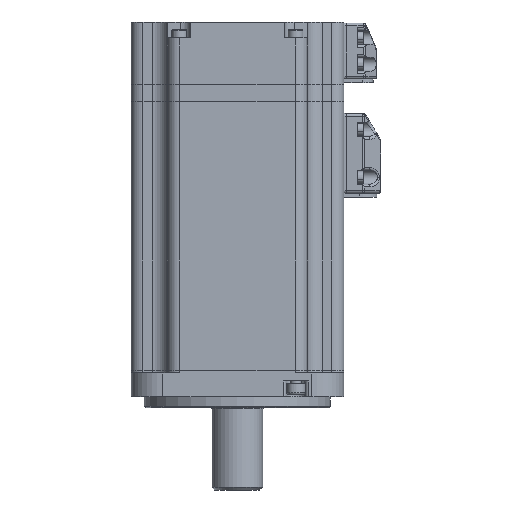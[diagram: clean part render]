
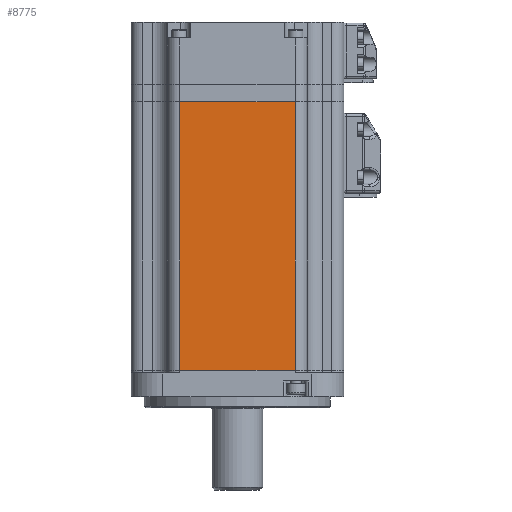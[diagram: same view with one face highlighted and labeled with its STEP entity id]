
A CAD part, front view. The second image highlights one B-rep face of the part: STEP entity #8775.
In plain terms, the highlighted planar face has unit normal (0, -1, 0).
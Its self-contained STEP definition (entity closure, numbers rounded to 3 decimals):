
#1295 = DIRECTION ( 'NONE',  ( 1., 0., 0. ) ) ;
#2282 = PLANE ( 'NONE',  #21031 ) ;
#2866 = EDGE_CURVE ( 'NONE', #11935, #46539, #43591, .T. ) ;
#3796 = DIRECTION ( 'NONE',  ( 0., 0., 1. ) ) ;
#5076 = CARTESIAN_POINT ( 'NONE',  ( 22.545, -40.348, 111.1 ) ) ;
#6018 = LINE ( 'NONE', #28128, #13788 ) ;
#8775 = ADVANCED_FACE ( 'NONE', ( #47866 ), #2282, .F. ) ;
#10030 = DIRECTION ( 'NONE',  ( 0., 1., 0. ) ) ;
#10273 = VERTEX_POINT ( 'NONE', #12856 ) ;
#10987 = DIRECTION ( 'NONE',  ( 0., 0., -1. ) ) ;
#11153 = ORIENTED_EDGE ( 'NONE', *, *, #37925, .F. ) ;
#11935 = VERTEX_POINT ( 'NONE', #23794 ) ;
#12446 = EDGE_LOOP ( 'NONE', ( #11153, #31906, #25694, #30703 ) ) ;
#12856 = CARTESIAN_POINT ( 'NONE',  ( -20.955, -40.348, 10. ) ) ;
#13788 = VECTOR ( 'NONE', #1295, 1000. ) ;
#20085 = EDGE_CURVE ( 'NONE', #35000, #10273, #24321, .T. ) ;
#20155 = CARTESIAN_POINT ( 'NONE',  ( 22.545, -40.348, 111.1 ) ) ;
#21031 = AXIS2_PLACEMENT_3D ( 'NONE', #40503, #10030, #36842 ) ;
#23498 = CARTESIAN_POINT ( 'NONE',  ( 27.045, -40.348, 111.1 ) ) ;
#23794 = CARTESIAN_POINT ( 'NONE',  ( 22.545, -40.348, 10. ) ) ;
#24321 = LINE ( 'NONE', #37811, #43577 ) ;
#25694 = ORIENTED_EDGE ( 'NONE', *, *, #49063, .T. ) ;
#28128 = CARTESIAN_POINT ( 'NONE',  ( 27.045, -40.348, 10. ) ) ;
#30703 = ORIENTED_EDGE ( 'NONE', *, *, #2866, .T. ) ;
#31276 = DIRECTION ( 'NONE',  ( 1., 0., 0. ) ) ;
#31906 = ORIENTED_EDGE ( 'NONE', *, *, #20085, .T. ) ;
#32181 = VECTOR ( 'NONE', #3796, 1000. ) ;
#35000 = VERTEX_POINT ( 'NONE', #46137 ) ;
#36842 = DIRECTION ( 'NONE',  ( -1., 0., 0. ) ) ;
#37811 = CARTESIAN_POINT ( 'NONE',  ( -20.955, -40.348, 111.1 ) ) ;
#37925 = EDGE_CURVE ( 'NONE', #35000, #46539, #49694, .T. ) ;
#39521 = VECTOR ( 'NONE', #31276, 1000. ) ;
#40503 = CARTESIAN_POINT ( 'NONE',  ( 27.045, -40.348, 111.1 ) ) ;
#43577 = VECTOR ( 'NONE', #10987, 1000. ) ;
#43591 = LINE ( 'NONE', #5076, #32181 ) ;
#46137 = CARTESIAN_POINT ( 'NONE',  ( -20.955, -40.348, 111.1 ) ) ;
#46539 = VERTEX_POINT ( 'NONE', #20155 ) ;
#47866 = FACE_OUTER_BOUND ( 'NONE', #12446, .T. ) ;
#49063 = EDGE_CURVE ( 'NONE', #10273, #11935, #6018, .T. ) ;
#49694 = LINE ( 'NONE', #23498, #39521 ) ;
